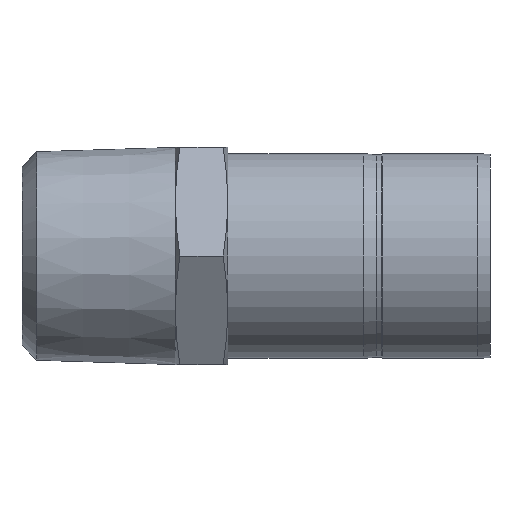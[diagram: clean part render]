
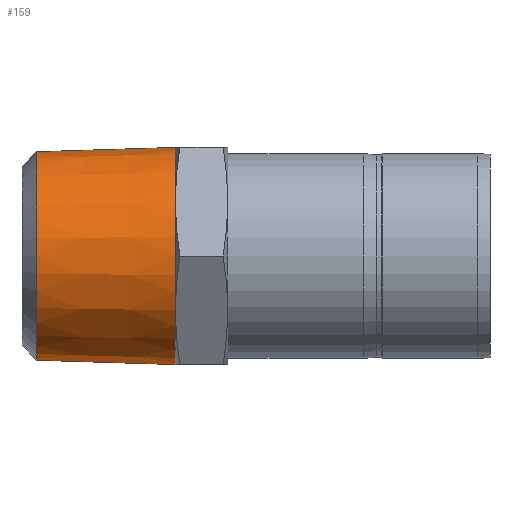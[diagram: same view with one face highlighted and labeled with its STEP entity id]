
A CAD part, front view. The second image highlights one B-rep face of the part: STEP entity #159.
In plain terms, the highlighted conical face has half-angle 1.8 degrees and reference radius 13.131 mm.
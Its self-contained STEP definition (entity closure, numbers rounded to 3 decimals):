
#144 = ORIENTED_EDGE ( 'NONE', *, *, #145, .T. ) ;
#145 = EDGE_CURVE ( 'NONE', #173, #146, #436, .T. ) ;
#146 = VERTEX_POINT ( 'NONE', #636 ) ;
#147 = ORIENTED_EDGE ( 'NONE', *, *, #149, .T. ) ;
#149 = EDGE_CURVE ( 'NONE', #146, #150, #685, .T. ) ;
#150 = VERTEX_POINT ( 'NONE', #680 ) ;
#151 = ORIENTED_EDGE ( 'NONE', *, *, #152, .F. ) ;
#152 = EDGE_CURVE ( 'NONE', #308, #150, #629, .T. ) ;
#159 = ADVANCED_FACE ( 'NONE', ( #668 ), #667, .T. ) ;
#160 = EDGE_LOOP ( 'NONE', ( #312, #144, #147, #151 ) ) ;
#173 = VERTEX_POINT ( 'NONE', #641 ) ;
#308 = VERTEX_POINT ( 'NONE', #915 ) ;
#312 = ORIENTED_EDGE ( 'NONE', *, *, #313, .T. ) ;
#313 = EDGE_CURVE ( 'NONE', #308, #173, #995, .T. ) ;
#430 = CARTESIAN_POINT ( 'NONE',  ( -10.39, 0., -13.131 ) ) ;
#436 = LINE ( 'NONE', #430, #472 ) ;
#471 = DIRECTION ( 'NONE',  ( 1., 0., -0.031 ) ) ;
#472 = VECTOR ( 'NONE', #471, 1000. ) ;
#626 = DIRECTION ( 'NONE',  ( 1., 0., 0.031 ) ) ;
#627 = VECTOR ( 'NONE', #626, 1000. ) ;
#628 = CARTESIAN_POINT ( 'NONE',  ( -10.39, 0., 13.131 ) ) ;
#629 = LINE ( 'NONE', #628, #627 ) ;
#636 = CARTESIAN_POINT ( 'NONE',  ( 0., 0., -13.458 ) ) ;
#641 = CARTESIAN_POINT ( 'NONE',  ( -17.201, 0., -12.917 ) ) ;
#663 = DIRECTION ( 'NONE',  ( 0., 0., 1. ) ) ;
#664 = DIRECTION ( 'NONE',  ( 1., 0., 0. ) ) ;
#665 = CARTESIAN_POINT ( 'NONE',  ( -10.39, 0., 0. ) ) ;
#666 = AXIS2_PLACEMENT_3D ( 'NONE', #665, #664, #663 ) ;
#667 = CONICAL_SURFACE ( 'NONE', #666, 13.131, 0.031 ) ;
#668 = FACE_OUTER_BOUND ( 'NONE', #160, .T. ) ;
#680 = CARTESIAN_POINT ( 'NONE',  ( 0., 0., 13.458 ) ) ;
#681 = DIRECTION ( 'NONE',  ( 0., 0., -1. ) ) ;
#682 = DIRECTION ( 'NONE',  ( -1., 0., 0. ) ) ;
#683 = CARTESIAN_POINT ( 'NONE',  ( 0., 0., 0. ) ) ;
#684 = AXIS2_PLACEMENT_3D ( 'NONE', #683, #682, #681 ) ;
#685 = CIRCLE ( 'NONE', #684, 13.458 ) ;
#915 = CARTESIAN_POINT ( 'NONE',  ( -17.201, 0., 12.917 ) ) ;
#991 = DIRECTION ( 'NONE',  ( 0., 0., -1. ) ) ;
#992 = DIRECTION ( 'NONE',  ( 1., 0., 0. ) ) ;
#993 = CARTESIAN_POINT ( 'NONE',  ( -17.201, 0., 0. ) ) ;
#994 = AXIS2_PLACEMENT_3D ( 'NONE', #993, #992, #991 ) ;
#995 = CIRCLE ( 'NONE', #994, 12.917 ) ;
